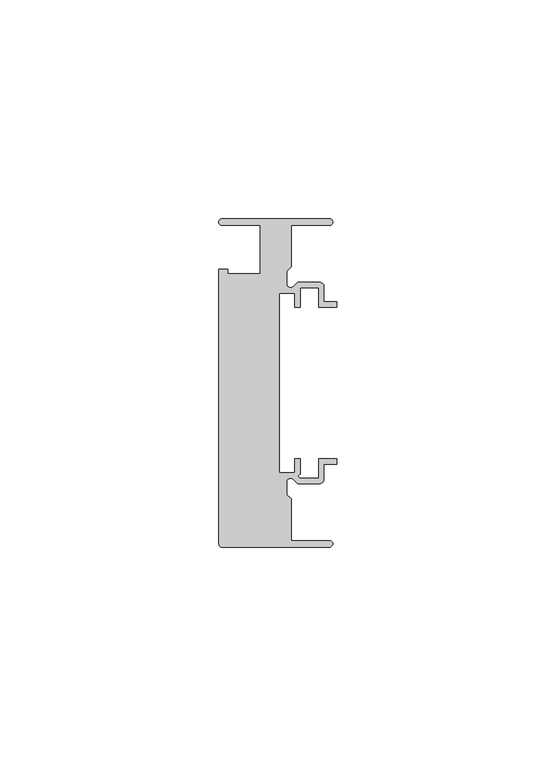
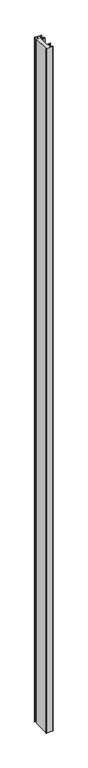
"""IFC4 building model written with IfcOpenShell, lengths in millimetres: member geometry, Прямоугольный импост : 5-AMG-1-Профиль 26Х75 Низ Л."""

from ifc_helpers import new_model, si_unit, point, frame, frame_2d, origin, place, context, project, spatial, polyline, circle_curve, trimmed, segment, composite_curve, outline, extrude, source, transform, mapped, element, save


def member_084454fe(model_context):
    return source(origin(), model_context, "Body", "SweptSolid", [
        extrude(outline(composite_curve([segment(trimmed(circle_curve(frame_2d((-1.7, 36.75)), 0.75), [point((-1.7, 37.5))], [point((-1.7, 36.0))], False, "CARTESIAN"), True, "CONTINUOUS"), segment(polyline([(-1.7, 36.0), (-10.5, 36.0), (-10.5, 26.5029437), (-11.5, 25.5029437), (-11.5, 22.6727922)]), True, "CONTINUOUS"), segment(trimmed(circle_curve(frame_2d((-10.6, 22.6727922)), 0.9), [point((-11.5, 22.6727922))], [point((-9.9636039, 22.0363961))], True, "CARTESIAN"), True, "CONTINUOUS"), segment(polyline([(-9.9636039, 22.0363961), (-9.0, 23.0), (-4.0, 23.0)]), True, "CONTINUOUS"), segment(trimmed(circle_curve(frame_2d((-4.0, 22.0)), 1.0), [point((-4.0, 23.0))], [point((-3.0, 22.0))], False, "CARTESIAN"), True, "CONTINUOUS"), segment(polyline([(-3.0, 22.0), (-3.0, 18.55), (0.0, 18.55), (0.0, 17.35), (-4.2, 17.35), (-4.2, 21.8), (-8.45, 21.8), (-8.45, 17.35), (-9.65, 17.35), (-9.65, 20.55), (-13.15, 20.55), (-13.15, -20.55), (-9.65, -20.55), (-9.65, -17.35), (-8.45, -17.35), (-8.45, -20.8470563)]), True, "CONTINUOUS"), segment(trimmed(circle_curve(frame_2d((-8.3343131, -21.3314262)), 0.4979937), [point((-8.45, -20.8470563))], [point((-8.5029437, -21.8))], True, "CARTESIAN"), True, "CONTINUOUS"), segment(polyline([(-8.5029437, -21.8), (-4.2, -21.8), (-4.2, -17.35), (0.0, -17.35), (0.0, -18.55), (-3.0, -18.55), (-3.0, -22.0)]), True, "CONTINUOUS"), segment(trimmed(circle_curve(frame_2d((-4.0, -22.0)), 1.0), [point((-3.0, -22.0))], [point((-4.0, -23.0))], False, "CARTESIAN"), True, "CONTINUOUS"), segment(polyline([(-4.0, -23.0), (-9.0, -23.0), (-9.9636039, -22.0363961)]), True, "CONTINUOUS"), segment(trimmed(circle_curve(frame_2d((-10.6, -22.6727922)), 0.9), [point((-9.9636039, -22.0363961))], [point((-11.5, -22.6727922))], True, "CARTESIAN"), True, "CONTINUOUS"), segment(polyline([(-11.5, -22.6727922), (-11.5, -25.5029437), (-10.5, -26.5029437), (-10.5, -36.0), (-1.7, -36.0)]), True, "CONTINUOUS"), segment(trimmed(circle_curve(frame_2d((-1.7, -36.75)), 0.75), [point((-1.7, -36.0))], [point((-1.7, -37.5))], False, "CARTESIAN"), True, "CONTINUOUS"), segment(polyline([(-1.7, -37.5), (-26.25, -37.5)]), True, "CONTINUOUS"), segment(trimmed(circle_curve(frame_2d((-26.25, -36.75)), 0.75), [point((-26.25, -37.5))], [point((-27.0, -36.75))], False, "CARTESIAN"), True, "CONTINUOUS"), segment(polyline([(-27.0, -36.75), (-27.0, 26.0), (-24.9359877, 26.0), (-24.9359877, 25.0), (-17.5, 25.0), (-17.5, 36.0), (-26.25, 36.0)]), True, "CONTINUOUS"), segment(trimmed(circle_curve(frame_2d((-26.25, 36.75)), 0.75), [point((-26.25, 36.0))], [point((-26.25, 37.5))], False, "CARTESIAN"), True, "CONTINUOUS"), segment(polyline([(-26.25, 37.5), (-1.7, 37.5)]), True, "CONTINUOUS")], self_intersect=False)), frame((0.0, 0.0, -2746.0), z_axis=(0.0, 0.0, 1.0), x_axis=(1.0, 0.0, 0.0)), (0.0, 0.0, 1.0), 2746.0),
    ])


if __name__ == "__main__":
    model = new_model("IFC4")
    model_context = context("Model", 3, world=origin())
    ifc_project = project(units=[si_unit("LENGTHUNIT", "METRE", prefix="MILLI")], contexts=[model_context])
    site = spatial("IfcSite", under=ifc_project)
    building = spatial("IfcBuilding", under=site)
    placement = place(None, origin())
    member_shape = member_084454fe(model_context)
    element("IfcMember", 1, ObjectType="Прямоугольный импост : 5-AMG-1-Профиль 26Х75 Низ Л", at=placement, inside=building, context=model_context, shape_type="MappedRepresentation", body=[
        mapped(member_shape, transform((0.0, 0.0, 0.0), x_axis=(1.0, 0.0, 0.0), y_axis=(0.0, 1.0, 0.0), z_axis=(0.0, 0.0, 1.0))),
    ])
    save(model, "model.ifc")
